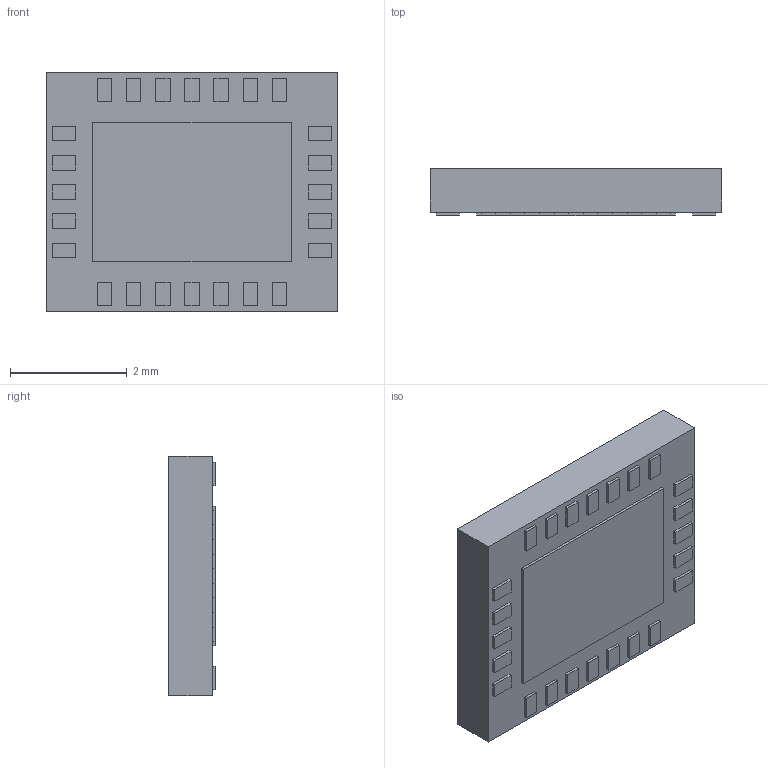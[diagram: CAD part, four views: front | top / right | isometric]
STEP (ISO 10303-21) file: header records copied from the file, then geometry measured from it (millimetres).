
FILE_DESCRIPTION (( 'STEP AP214' ), '1' );
FILE_NAME ( 'PQFN25P50_480X390X80L40X25T340X240.STEP', '2021-10-06T06:49:13', ( '' ), ( '' ), '', '©2017 PCB Libraries, Inc.', '' );
FILE_SCHEMA (( 'AUTOMOTIVE_DESIGN' ));
Length unit declared in the file: millimetre
Products named in the file (1): PQFN25P50_480X390X80L40X25T340X240
Bounding box: 5 x 0.8 x 4.1 mm (x, y, z)
Volume: 15.9 mm3; surface area: 78 mm2
Topology: 26 solids, 26 shells, 159 faces, 318 edges, 212 vertices
Faces by surface type: plane 157, torus 2
Entity records: 4761 total; most frequent: CARTESIAN_POINT 690, DIRECTION 644, ORIENTED_EDGE 636, EDGE_CURVE 318, VECTOR 312, LINE 312, VERTEX_POINT 212, STYLED_ITEM 186
